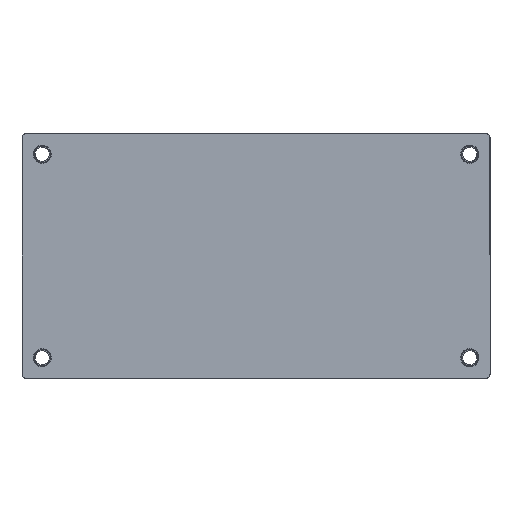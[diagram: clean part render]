
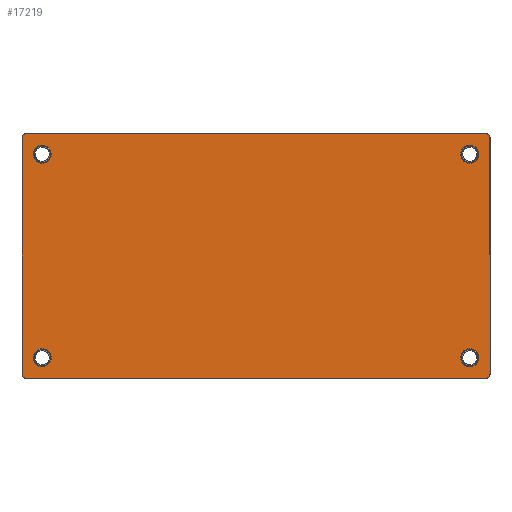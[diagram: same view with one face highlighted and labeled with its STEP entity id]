
A CAD part, front view. The second image highlights one B-rep face of the part: STEP entity #17219.
In plain terms, the highlighted planar face has unit normal (0, -1, 0).
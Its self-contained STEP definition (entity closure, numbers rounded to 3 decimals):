
#229 = ORIENTED_EDGE ( 'NONE', *, *, #3006, .T. ) ;
#256 = DIRECTION ( 'NONE',  ( -1., 0., 0. ) ) ;
#408 = DIRECTION ( 'NONE',  ( -1., 0., 0. ) ) ;
#561 = FACE_BOUND ( 'NONE', #16630, .T. ) ;
#656 = CIRCLE ( 'NONE', #17557, 2.25 ) ;
#761 = LINE ( 'NONE', #7590, #2252 ) ;
#789 = CARTESIAN_POINT ( 'NONE',  ( 58.4, -1.7, 30.5 ) ) ;
#875 = CARTESIAN_POINT ( 'NONE',  ( -53.35, -1.7, 25.4 ) ) ;
#963 = VERTEX_POINT ( 'NONE', #2267 ) ;
#2252 = VECTOR ( 'NONE', #41148, 1000. ) ;
#2267 = CARTESIAN_POINT ( 'NONE',  ( -58.4, -1.7, -29.5 ) ) ;
#2840 = CARTESIAN_POINT ( 'NONE',  ( 58.4, -1.7, -29.5 ) ) ;
#3006 = EDGE_CURVE ( 'NONE', #26930, #43193, #12143, .T. ) ;
#3016 = EDGE_LOOP ( 'NONE', ( #22587 ) ) ;
#3354 = DIRECTION ( 'NONE',  ( 0., -1., 0. ) ) ;
#3760 = EDGE_CURVE ( 'NONE', #13977, #13977, #31907, .T. ) ;
#4086 = PLANE ( 'NONE',  #23356 ) ;
#4639 = AXIS2_PLACEMENT_3D ( 'NONE', #875, #11441, #24918 ) ;
#4648 = EDGE_CURVE ( 'NONE', #963, #42937, #32053, .T. ) ;
#4857 = VERTEX_POINT ( 'NONE', #37964 ) ;
#5065 = CARTESIAN_POINT ( 'NONE',  ( -53.35, -1.7, -25.4 ) ) ;
#5540 = CIRCLE ( 'NONE', #30205, 1. ) ;
#7240 = DIRECTION ( 'NONE',  ( 0., -1., 0. ) ) ;
#7439 = CARTESIAN_POINT ( 'NONE',  ( 58.4, -1.7, 30.5 ) ) ;
#7472 = EDGE_CURVE ( 'NONE', #31692, #963, #42649, .T. ) ;
#7590 = CARTESIAN_POINT ( 'NONE',  ( 58.4, -1.7, -30.5 ) ) ;
#7782 = ORIENTED_EDGE ( 'NONE', *, *, #4648, .T. ) ;
#7822 = CARTESIAN_POINT ( 'NONE',  ( -57.4, -1.7, 30.5 ) ) ;
#9620 = EDGE_CURVE ( 'NONE', #23124, #31692, #5540, .T. ) ;
#10533 = DIRECTION ( 'NONE',  ( -1., 0., 0. ) ) ;
#11388 = DIRECTION ( 'NONE',  ( -1., 0., 0. ) ) ;
#11441 = DIRECTION ( 'NONE',  ( 0., -1., 0. ) ) ;
#11496 = ORIENTED_EDGE ( 'NONE', *, *, #11845, .T. ) ;
#11685 = ORIENTED_EDGE ( 'NONE', *, *, #9620, .T. ) ;
#11845 = EDGE_CURVE ( 'NONE', #42937, #26930, #28042, .T. ) ;
#12133 = DIRECTION ( 'NONE',  ( -1., 0., 0. ) ) ;
#12143 = CIRCLE ( 'NONE', #24812, 1. ) ;
#12161 = CIRCLE ( 'NONE', #24860, 1. ) ;
#13089 = CIRCLE ( 'NONE', #4639, 2.25 ) ;
#13197 = ORIENTED_EDGE ( 'NONE', *, *, #13479, .F. ) ;
#13479 = EDGE_CURVE ( 'NONE', #38299, #38299, #24412, .T. ) ;
#13977 = VERTEX_POINT ( 'NONE', #41379 ) ;
#14217 = DIRECTION ( 'NONE',  ( 0., -1., 0. ) ) ;
#14870 = CARTESIAN_POINT ( 'NONE',  ( -55.6, -1.7, -25.4 ) ) ;
#15021 = ORIENTED_EDGE ( 'NONE', *, *, #38388, .T. ) ;
#16223 = CARTESIAN_POINT ( 'NONE',  ( 57.4, -1.7, -30.5 ) ) ;
#16630 = EDGE_LOOP ( 'NONE', ( #30243 ) ) ;
#17219 = ADVANCED_FACE ( 'NONE', ( #34333, #21293, #30799, #561, #24606 ), #4086, .T. ) ;
#17557 = AXIS2_PLACEMENT_3D ( 'NONE', #30213, #20477, #408 ) ;
#17631 = ORIENTED_EDGE ( 'NONE', *, *, #7472, .T. ) ;
#17663 = CARTESIAN_POINT ( 'NONE',  ( 58.4, -1.7, -30.5 ) ) ;
#17886 = DIRECTION ( 'NONE',  ( 1., 0., 0. ) ) ;
#17953 = AXIS2_PLACEMENT_3D ( 'NONE', #23493, #33859, #37392 ) ;
#18303 = CARTESIAN_POINT ( 'NONE',  ( 51.1, -1.7, -25.4 ) ) ;
#19107 = EDGE_LOOP ( 'NONE', ( #33198, #24451, #15021, #11685, #17631, #7782, #11496, #229 ) ) ;
#19275 = VERTEX_POINT ( 'NONE', #36637 ) ;
#20477 = DIRECTION ( 'NONE',  ( 0., -1., 0. ) ) ;
#21293 = FACE_BOUND ( 'NONE', #41345, .T. ) ;
#21721 = DIRECTION ( 'NONE',  ( -1., 0., 0. ) ) ;
#22587 = ORIENTED_EDGE ( 'NONE', *, *, #3760, .F. ) ;
#23124 = VERTEX_POINT ( 'NONE', #7822 ) ;
#23356 = AXIS2_PLACEMENT_3D ( 'NONE', #789, #14217, #27699 ) ;
#23446 = CARTESIAN_POINT ( 'NONE',  ( -57.4, -1.7, 29.5 ) ) ;
#23493 = CARTESIAN_POINT ( 'NONE',  ( -57.4, -1.7, -29.5 ) ) ;
#23844 = VERTEX_POINT ( 'NONE', #28914 ) ;
#24412 = CIRCLE ( 'NONE', #43452, 2.25 ) ;
#24451 = ORIENTED_EDGE ( 'NONE', *, *, #28265, .T. ) ;
#24477 = VECTOR ( 'NONE', #17886, 1000. ) ;
#24606 = FACE_OUTER_BOUND ( 'NONE', #19107, .T. ) ;
#24812 = AXIS2_PLACEMENT_3D ( 'NONE', #37272, #7240, #10533 ) ;
#24860 = AXIS2_PLACEMENT_3D ( 'NONE', #42488, #41600, #21721 ) ;
#24918 = DIRECTION ( 'NONE',  ( -1., 0., 0. ) ) ;
#25796 = EDGE_CURVE ( 'NONE', #43193, #23844, #761, .T. ) ;
#26292 = EDGE_LOOP ( 'NONE', ( #36938 ) ) ;
#26930 = VERTEX_POINT ( 'NONE', #16223 ) ;
#27699 = DIRECTION ( 'NONE',  ( -1., 0., 0. ) ) ;
#28042 = LINE ( 'NONE', #17663, #24477 ) ;
#28265 = EDGE_CURVE ( 'NONE', #23844, #19275, #12161, .T. ) ;
#28914 = CARTESIAN_POINT ( 'NONE',  ( 58.4, -1.7, 29.5 ) ) ;
#28963 = CARTESIAN_POINT ( 'NONE',  ( -58.4, -1.7, -30.5 ) ) ;
#29642 = CARTESIAN_POINT ( 'NONE',  ( -58.4, -1.7, 29.5 ) ) ;
#30205 = AXIS2_PLACEMENT_3D ( 'NONE', #23446, #3354, #256 ) ;
#30213 = CARTESIAN_POINT ( 'NONE',  ( 53.35, -1.7, -25.4 ) ) ;
#30243 = ORIENTED_EDGE ( 'NONE', *, *, #43101, .F. ) ;
#30799 = FACE_BOUND ( 'NONE', #3016, .T. ) ;
#31330 = VERTEX_POINT ( 'NONE', #18303 ) ;
#31692 = VERTEX_POINT ( 'NONE', #29642 ) ;
#31907 = CIRCLE ( 'NONE', #42481, 2.25 ) ;
#31975 = DIRECTION ( 'NONE',  ( -1., 0., 0. ) ) ;
#32053 = CIRCLE ( 'NONE', #17953, 1. ) ;
#33198 = ORIENTED_EDGE ( 'NONE', *, *, #25796, .T. ) ;
#33859 = DIRECTION ( 'NONE',  ( 0., -1., 0. ) ) ;
#34333 = FACE_BOUND ( 'NONE', #26292, .T. ) ;
#36171 = DIRECTION ( 'NONE',  ( 0., -1., 0. ) ) ;
#36637 = CARTESIAN_POINT ( 'NONE',  ( 57.4, -1.7, 30.5 ) ) ;
#36938 = ORIENTED_EDGE ( 'NONE', *, *, #39794, .F. ) ;
#37272 = CARTESIAN_POINT ( 'NONE',  ( 57.4, -1.7, -29.5 ) ) ;
#37392 = DIRECTION ( 'NONE',  ( -1., 0., 0. ) ) ;
#37686 = LINE ( 'NONE', #7439, #42198 ) ;
#37964 = CARTESIAN_POINT ( 'NONE',  ( -55.6, -1.7, 25.4 ) ) ;
#38299 = VERTEX_POINT ( 'NONE', #14870 ) ;
#38388 = EDGE_CURVE ( 'NONE', #19275, #23124, #37686, .T. ) ;
#39794 = EDGE_CURVE ( 'NONE', #31330, #31330, #656, .T. ) ;
#40195 = CARTESIAN_POINT ( 'NONE',  ( -57.4, -1.7, -30.5 ) ) ;
#40813 = VECTOR ( 'NONE', #42432, 1000. ) ;
#41148 = DIRECTION ( 'NONE',  ( 0., 0., 1. ) ) ;
#41345 = EDGE_LOOP ( 'NONE', ( #13197 ) ) ;
#41379 = CARTESIAN_POINT ( 'NONE',  ( 51.1, -1.7, 25.4 ) ) ;
#41600 = DIRECTION ( 'NONE',  ( 0., -1., 0. ) ) ;
#42169 = CARTESIAN_POINT ( 'NONE',  ( 53.35, -1.7, 25.4 ) ) ;
#42198 = VECTOR ( 'NONE', #11388, 1000. ) ;
#42393 = DIRECTION ( 'NONE',  ( 0., -1., 0. ) ) ;
#42432 = DIRECTION ( 'NONE',  ( 0., 0., -1. ) ) ;
#42481 = AXIS2_PLACEMENT_3D ( 'NONE', #42169, #42393, #12133 ) ;
#42488 = CARTESIAN_POINT ( 'NONE',  ( 57.4, -1.7, 29.5 ) ) ;
#42649 = LINE ( 'NONE', #28963, #40813 ) ;
#42937 = VERTEX_POINT ( 'NONE', #40195 ) ;
#43101 = EDGE_CURVE ( 'NONE', #4857, #4857, #13089, .T. ) ;
#43193 = VERTEX_POINT ( 'NONE', #2840 ) ;
#43452 = AXIS2_PLACEMENT_3D ( 'NONE', #5065, #36171, #31975 ) ;
